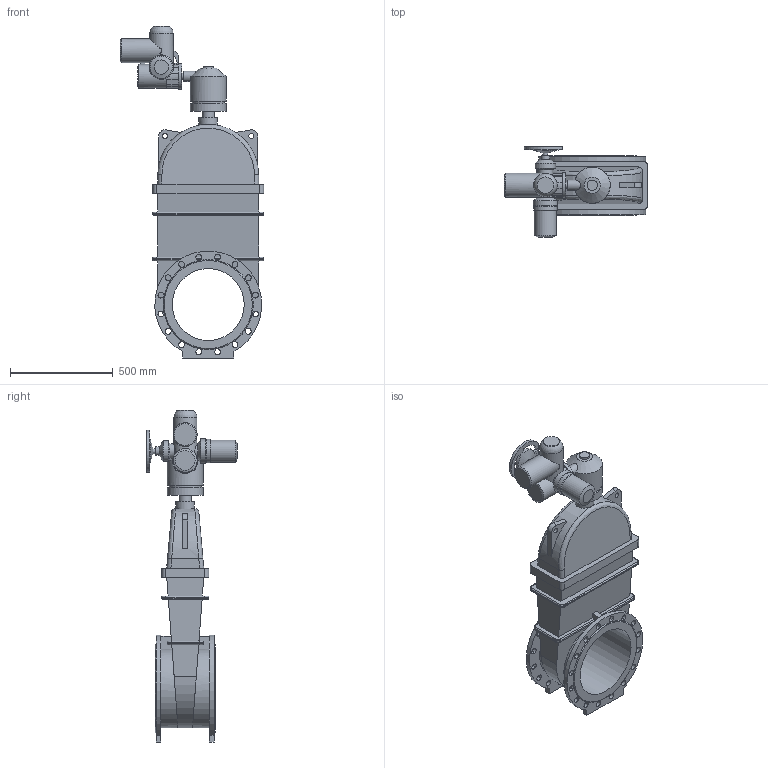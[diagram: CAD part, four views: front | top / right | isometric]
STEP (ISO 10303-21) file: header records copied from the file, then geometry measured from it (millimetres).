
FILE_DESCRIPTION(('STEP AP203'), '1');
FILE_NAME('Çàäâèæêà 47GV.Z DN350 PN10_PN16 + ðåäóêòîð+ÌÒ903.À07', '', ('UNSPECIFIED'), ('UNSPECIFIED'), 'ASCON STEP Converter 1.6', 'ASCON Math Kernel', '');
FILE_SCHEMA(('CONFIG_CONTROL_DESIGN'));
Length unit declared in the file: millimetre
Bounding box: 698 x 440 x 1615 mm (x, y, z)
Volume: 80176847 mm3; surface area: 2912806.4 mm2
Topology: 1 solids, 1 shells, 392 faces, 1067 edges, 679 vertices
Faces by surface type: plane 197, cylinder 164, cone 12, bspline 10, torus 9
Full cylindrical faces by diameter (mm): 8.5 x4, 12 x4, 14 x4, 18 x4, 24 x1, 25 x2, 30 x1, 42 x1, 50 x2, 60 x1, 66 x1, 72 x1, 80 x1, 90 x1, 100 x1, 108 x1, 114 x1, 115 x1, 116 x2, 119 x1, 125 x1, 155 x1, 175 x2, 350 x1
Entity records: 18024 total; most frequent: CARTESIAN_POINT 4959, DIRECTION 2077, ORIENTED_EDGE 1994, EDGE_CURVE 997, AXIS2_PLACEMENT_3D 772, VERTEX_POINT 671, EDGE_LOOP 556, LINE 533
